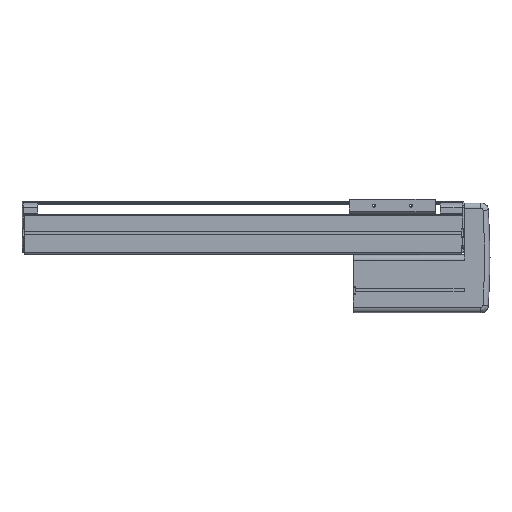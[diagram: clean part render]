
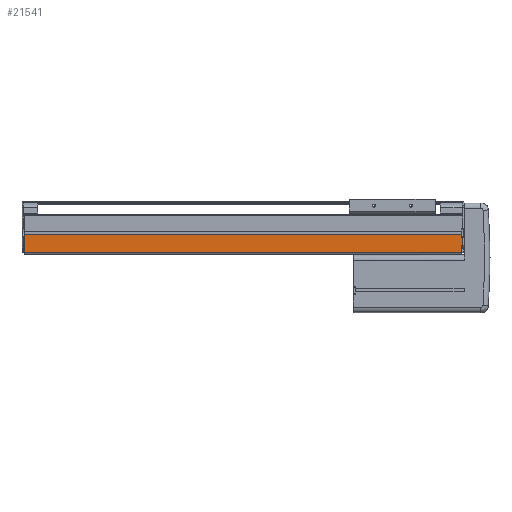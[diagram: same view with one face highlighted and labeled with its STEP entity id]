
A CAD part, top view. The second image highlights one B-rep face of the part: STEP entity #21541.
In plain terms, the highlighted planar face has unit normal (0, 0, 1).
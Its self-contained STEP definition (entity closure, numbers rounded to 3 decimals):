
#4958=DIRECTION('',(-1.,0.,0.));
#4959=VECTOR('',#4958,591.);
#4960=CARTESIAN_POINT('',(591.,28.9,39.));
#4961=LINE('',#4960,#4959);
#4970=DIRECTION('',(0.,1.,0.));
#4971=VECTOR('',#4970,3.9);
#4972=CARTESIAN_POINT('',(591.,25.,39.));
#4973=LINE('',#4972,#4971);
#4974=DIRECTION('',(0.,1.,0.));
#4975=VECTOR('',#4974,9.5);
#4976=CARTESIAN_POINT('',(591.,4.5,39.));
#4977=LINE('',#4976,#4975);
#4978=DIRECTION('',(0.,-1.,0.));
#4979=VECTOR('',#4978,24.4);
#4980=CARTESIAN_POINT('',(0.,28.9,39.));
#4981=LINE('',#4980,#4979);
#4991=DIRECTION('',(-1.,0.,0.));
#4992=VECTOR('',#4991,0.7);
#4993=CARTESIAN_POINT('',(591.7,25.,39.));
#4994=LINE('',#4993,#4992);
#5264=DIRECTION('',(1.,0.,0.));
#5265=VECTOR('',#5264,0.7);
#5266=CARTESIAN_POINT('',(591.,14.,39.));
#5267=LINE('',#5266,#5265);
#5369=DIRECTION('',(0.,1.,0.));
#5370=VECTOR('',#5369,11.);
#5371=CARTESIAN_POINT('',(591.7,14.,39.));
#5372=LINE('',#5371,#5370);
#9130=DIRECTION('',(1.,0.,0.));
#9131=VECTOR('',#9130,591.);
#9132=CARTESIAN_POINT('',(0.,4.5,39.));
#9133=LINE('',#9132,#9131);
#12875=CARTESIAN_POINT('',(0.,4.5,39.));
#12876=VERTEX_POINT('',#12875);
#12877=CARTESIAN_POINT('',(0.,28.9,39.));
#12878=VERTEX_POINT('',#12877);
#12991=CARTESIAN_POINT('',(591.,28.9,39.));
#12992=VERTEX_POINT('',#12991);
#12994=CARTESIAN_POINT('',(591.,4.5,39.));
#12996=VERTEX_POINT('',#12994);
#13822=CARTESIAN_POINT('',(591.7,14.,39.));
#13823=CARTESIAN_POINT('',(591.7,25.,39.));
#13824=VERTEX_POINT('',#13822);
#13825=VERTEX_POINT('',#13823);
#14444=CARTESIAN_POINT('',(591.,14.,39.));
#14445=VERTEX_POINT('',#14444);
#14446=CARTESIAN_POINT('',(591.,25.,39.));
#14448=VERTEX_POINT('',#14446);
#21522=CARTESIAN_POINT('',(295.5,16.7,39.));
#21523=DIRECTION('',(0.,0.,1.));
#21524=DIRECTION('',(0.,-1.,0.));
#21525=AXIS2_PLACEMENT_3D('',#21522,#21523,#21524);
#21526=PLANE('',#21525);
#21527=ORIENTED_EDGE('',*,*,#18354,.F.);
#21529=ORIENTED_EDGE('',*,*,#21528,.F.);
#21531=ORIENTED_EDGE('',*,*,#21530,.F.);
#21533=ORIENTED_EDGE('',*,*,#21532,.F.);
#21534=ORIENTED_EDGE('',*,*,#18466,.F.);
#21536=ORIENTED_EDGE('',*,*,#21535,.F.);
#21537=ORIENTED_EDGE('',*,*,#20829,.F.);
#21538=ORIENTED_EDGE('',*,*,#21515,.F.);
#21539=EDGE_LOOP('',(#21527,#21529,#21531,#21533,#21534,#21536,#21537,#21538));
#21540=FACE_OUTER_BOUND('',#21539,.F.);
#21541=ADVANCED_FACE('',(#21540),#21526,.T.);
#18354=EDGE_CURVE('',#14448,#12992,#4973,.T.);
#18466=EDGE_CURVE('',#12996,#14445,#4977,.T.);
#20829=EDGE_CURVE('',#12878,#12876,#4981,.T.);
#21515=EDGE_CURVE('',#12992,#12878,#4961,.T.);
#21528=EDGE_CURVE('',#13825,#14448,#4994,.T.);
#21530=EDGE_CURVE('',#13824,#13825,#5372,.T.);
#21532=EDGE_CURVE('',#14445,#13824,#5267,.T.);
#21535=EDGE_CURVE('',#12876,#12996,#9133,.T.);
